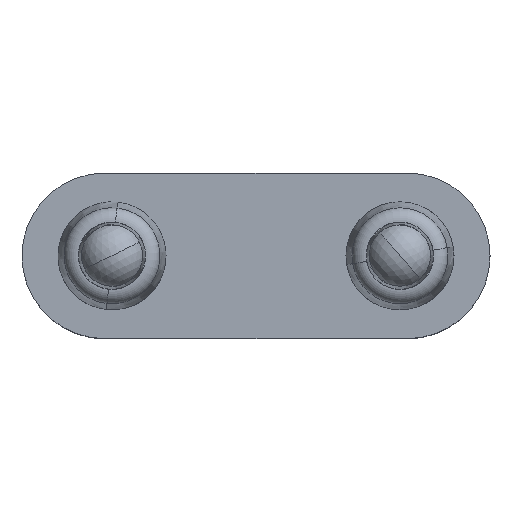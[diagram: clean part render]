
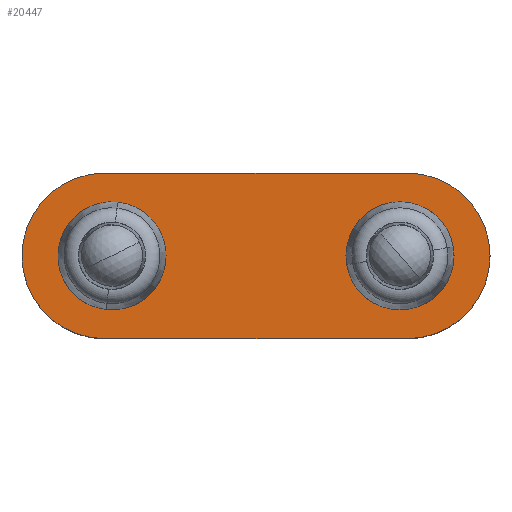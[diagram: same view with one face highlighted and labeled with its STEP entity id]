
A CAD part, top view. The second image highlights one B-rep face of the part: STEP entity #20447.
In plain terms, the highlighted planar face has unit normal (0, 0, 1).
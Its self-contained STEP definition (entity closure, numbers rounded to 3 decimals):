
#20029=DIRECTION('',(1.,0.,0.));
#20030=VECTOR('',#20029,0.483);
#20031=CARTESIAN_POINT('',(21.35,6.268,2.3));
#20032=LINE('',#20031,#20030);
#20033=CARTESIAN_POINT('',(21.591,5.558,2.3));
#20034=DIRECTION('',(0.,0.,-1.));
#20035=DIRECTION('',(-1.,0.,0.));
#20036=AXIS2_PLACEMENT_3D('',#20033,#20034,#20035);
#20038=CARTESIAN_POINT('',(21.591,5.558,2.3));
#20039=DIRECTION('',(0.,0.,-1.));
#20040=DIRECTION('',(-0.322,-0.947,0.));
#20041=AXIS2_PLACEMENT_3D('',#20038,#20039,#20040);
#20043=DIRECTION('',(-1.,0.,0.));
#20044=VECTOR('',#20043,0.483);
#20045=CARTESIAN_POINT('',(21.833,4.848,2.3));
#20046=LINE('',#20045,#20044);
#20047=CARTESIAN_POINT('',(21.591,5.558,2.3));
#20048=DIRECTION('',(0.,0.,-1.));
#20049=DIRECTION('',(1.,0.,0.));
#20050=AXIS2_PLACEMENT_3D('',#20047,#20048,#20049);
#20052=CARTESIAN_POINT('',(21.591,5.558,2.3));
#20053=DIRECTION('',(0.,0.,-1.));
#20054=DIRECTION('',(0.322,0.947,0.));
#20055=AXIS2_PLACEMENT_3D('',#20052,#20053,#20054);
#20057=DIRECTION('',(-1.,0.,0.));
#20058=VECTOR('',#20057,0.483);
#20059=CARTESIAN_POINT('',(17.833,4.848,2.3));
#20060=LINE('',#20059,#20058);
#20061=CARTESIAN_POINT('',(17.591,5.558,2.3));
#20062=DIRECTION('',(0.,0.,-1.));
#20063=DIRECTION('',(1.,0.,0.));
#20064=AXIS2_PLACEMENT_3D('',#20061,#20062,#20063);
#20066=CARTESIAN_POINT('',(17.591,5.558,2.3));
#20067=DIRECTION('',(0.,0.,-1.));
#20068=DIRECTION('',(0.322,0.947,0.));
#20069=AXIS2_PLACEMENT_3D('',#20066,#20067,#20068);
#20071=DIRECTION('',(1.,0.,0.));
#20072=VECTOR('',#20071,0.483);
#20073=CARTESIAN_POINT('',(17.35,6.268,2.3));
#20074=LINE('',#20073,#20072);
#20075=CARTESIAN_POINT('',(17.591,5.558,2.3));
#20076=DIRECTION('',(0.,0.,-1.));
#20077=DIRECTION('',(-1.,0.,0.));
#20078=AXIS2_PLACEMENT_3D('',#20075,#20076,#20077);
#20080=CARTESIAN_POINT('',(17.591,5.558,2.3));
#20081=DIRECTION('',(0.,0.,-1.));
#20082=DIRECTION('',(-0.322,-0.947,0.));
#20083=AXIS2_PLACEMENT_3D('',#20080,#20081,#20082);
#20085=CARTESIAN_POINT('',(21.691,5.558,2.3));
#20086=DIRECTION('',(0.,0.,-1.));
#20087=DIRECTION('',(0.,1.,0.));
#20088=AXIS2_PLACEMENT_3D('',#20085,#20086,#20087);
#20117=DIRECTION('',(1.,0.,0.));
#20118=VECTOR('',#20117,4.2);
#20119=CARTESIAN_POINT('',(17.491,6.708,2.3));
#20120=LINE('',#20119,#20118);
#20129=CARTESIAN_POINT('',(17.491,5.558,2.3));
#20130=DIRECTION('',(0.,0.,-1.));
#20131=DIRECTION('',(-1.,0.,0.));
#20132=AXIS2_PLACEMENT_3D('',#20129,#20130,#20131);
#20134=CARTESIAN_POINT('',(17.491,5.558,2.3));
#20135=DIRECTION('',(0.,0.,-1.));
#20136=DIRECTION('',(0.,-1.,0.));
#20137=AXIS2_PLACEMENT_3D('',#20134,#20135,#20136);
#20143=DIRECTION('',(-1.,0.,0.));
#20144=VECTOR('',#20143,4.2);
#20145=CARTESIAN_POINT('',(21.691,4.408,2.3));
#20146=LINE('',#20145,#20144);
#20295=CARTESIAN_POINT('',(21.833,6.268,2.3));
#20296=CARTESIAN_POINT('',(22.341,5.558,2.3));
#20297=VERTEX_POINT('',#20295);
#20298=VERTEX_POINT('',#20296);
#20299=CARTESIAN_POINT('',(17.833,4.848,2.3));
#20300=CARTESIAN_POINT('',(17.35,4.848,2.3));
#20301=VERTEX_POINT('',#20299);
#20302=VERTEX_POINT('',#20300);
#20304=CARTESIAN_POINT('',(17.833,6.268,2.3));
#20306=VERTEX_POINT('',#20304);
#20307=CARTESIAN_POINT('',(17.35,6.268,2.3));
#20308=VERTEX_POINT('',#20307);
#20311=CARTESIAN_POINT('',(16.341,5.558,2.3));
#20312=CARTESIAN_POINT('',(17.491,6.708,2.3));
#20313=VERTEX_POINT('',#20311);
#20314=VERTEX_POINT('',#20312);
#20315=CARTESIAN_POINT('',(21.691,6.708,2.3));
#20316=VERTEX_POINT('',#20315);
#20317=CARTESIAN_POINT('',(21.691,4.408,2.3));
#20318=VERTEX_POINT('',#20317);
#20319=CARTESIAN_POINT('',(20.841,5.558,2.3));
#20320=CARTESIAN_POINT('',(21.35,6.268,2.3));
#20321=VERTEX_POINT('',#20319);
#20322=VERTEX_POINT('',#20320);
#20323=CARTESIAN_POINT('',(18.341,5.558,2.3));
#20324=VERTEX_POINT('',#20323);
#20325=CARTESIAN_POINT('',(16.841,5.558,2.3));
#20326=VERTEX_POINT('',#20325);
#20339=CARTESIAN_POINT('',(17.491,4.408,2.3));
#20340=VERTEX_POINT('',#20339);
#20341=CARTESIAN_POINT('',(21.833,4.848,2.3));
#20342=VERTEX_POINT('',#20341);
#20353=CARTESIAN_POINT('',(21.35,4.848,2.3));
#20354=VERTEX_POINT('',#20353);
#20405=CARTESIAN_POINT('',(21.691,5.558,2.3));
#20406=DIRECTION('',(0.,0.,1.));
#20407=DIRECTION('',(1.,0.,0.));
#20408=AXIS2_PLACEMENT_3D('',#20405,#20406,#20407);
#20409=PLANE('',#20408);
#20411=ORIENTED_EDGE('',*,*,#20410,.T.);
#20413=ORIENTED_EDGE('',*,*,#20412,.T.);
#20415=ORIENTED_EDGE('',*,*,#20414,.T.);
#20417=ORIENTED_EDGE('',*,*,#20416,.T.);
#20419=ORIENTED_EDGE('',*,*,#20418,.T.);
#20420=EDGE_LOOP('',(#20411,#20413,#20415,#20417,#20419));
#20421=FACE_OUTER_BOUND('',#20420,.F.);
#20423=ORIENTED_EDGE('',*,*,#20422,.F.);
#20425=ORIENTED_EDGE('',*,*,#20424,.F.);
#20427=ORIENTED_EDGE('',*,*,#20426,.F.);
#20429=ORIENTED_EDGE('',*,*,#20428,.F.);
#20431=ORIENTED_EDGE('',*,*,#20430,.F.);
#20433=ORIENTED_EDGE('',*,*,#20432,.F.);
#20434=EDGE_LOOP('',(#20423,#20425,#20427,#20429,#20431,#20433));
#20435=FACE_BOUND('',#20434,.F.);
#20436=ORIENTED_EDGE('',*,*,#20374,.F.);
#20437=ORIENTED_EDGE('',*,*,#20388,.F.);
#20439=ORIENTED_EDGE('',*,*,#20438,.F.);
#20441=ORIENTED_EDGE('',*,*,#20440,.F.);
#20443=ORIENTED_EDGE('',*,*,#20442,.F.);
#20444=ORIENTED_EDGE('',*,*,#20394,.F.);
#20445=EDGE_LOOP('',(#20436,#20437,#20439,#20441,#20443,#20444));
#20446=FACE_BOUND('',#20445,.F.);
#20447=ADVANCED_FACE('',(#20421,#20435,#20446),#20409,.T.);
#20037=CIRCLE('',#20036,0.75);
#20042=CIRCLE('',#20041,0.75);
#20051=CIRCLE('',#20050,0.75);
#20056=CIRCLE('',#20055,0.75);
#20065=CIRCLE('',#20064,0.75);
#20070=CIRCLE('',#20069,0.75);
#20079=CIRCLE('',#20078,0.75);
#20084=CIRCLE('',#20083,0.75);
#20089=CIRCLE('',#20088,1.15);
#20133=CIRCLE('',#20132,1.15);
#20138=CIRCLE('',#20137,1.15);
#20374=EDGE_CURVE('',#20301,#20302,#20060,.T.);
#20388=EDGE_CURVE('',#20324,#20301,#20065,.T.);
#20394=EDGE_CURVE('',#20302,#20326,#20084,.T.);
#20410=EDGE_CURVE('',#20316,#20318,#20089,.T.);
#20412=EDGE_CURVE('',#20318,#20340,#20146,.T.);
#20414=EDGE_CURVE('',#20340,#20313,#20138,.T.);
#20416=EDGE_CURVE('',#20313,#20314,#20133,.T.);
#20418=EDGE_CURVE('',#20314,#20316,#20120,.T.);
#20422=EDGE_CURVE('',#20322,#20297,#20032,.T.);
#20424=EDGE_CURVE('',#20321,#20322,#20037,.T.);
#20426=EDGE_CURVE('',#20354,#20321,#20042,.T.);
#20428=EDGE_CURVE('',#20342,#20354,#20046,.T.);
#20430=EDGE_CURVE('',#20298,#20342,#20051,.T.);
#20432=EDGE_CURVE('',#20297,#20298,#20056,.T.);
#20438=EDGE_CURVE('',#20306,#20324,#20070,.T.);
#20440=EDGE_CURVE('',#20308,#20306,#20074,.T.);
#20442=EDGE_CURVE('',#20326,#20308,#20079,.T.);
